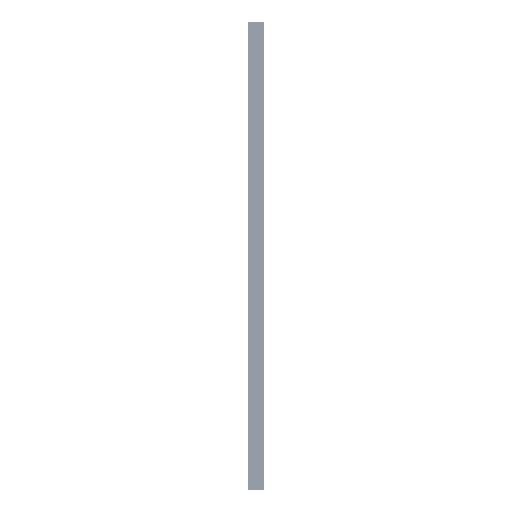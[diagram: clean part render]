
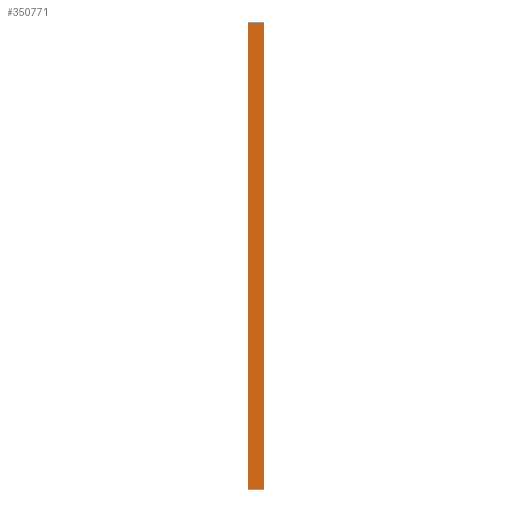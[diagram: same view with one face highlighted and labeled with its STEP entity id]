
A CAD part, left-side view. The second image highlights one B-rep face of the part: STEP entity #350771.
In plain terms, the highlighted planar face has unit normal (-1, 0, 0).
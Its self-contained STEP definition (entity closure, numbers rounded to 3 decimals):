
#26936 = VECTOR ( 'NONE', #192011, 1000. ) ;
#27064 = VERTEX_POINT ( 'NONE', #121810 ) ;
#48526 = VECTOR ( 'NONE', #95138, 1000. ) ;
#74448 = CARTESIAN_POINT ( 'NONE',  ( -23.646, 40.209, 0. ) ) ;
#85092 = CARTESIAN_POINT ( 'NONE',  ( -23.646, 40.209, 1398.5 ) ) ;
#86401 = FACE_OUTER_BOUND ( 'NONE', #95420, .T. ) ;
#95138 = DIRECTION ( 'NONE',  ( 0., 0., 1. ) ) ;
#95420 = EDGE_LOOP ( 'NONE', ( #310511, #368599, #385322, #286309 ) ) ;
#121810 = CARTESIAN_POINT ( 'NONE',  ( -23.646, -9.791, 0. ) ) ;
#137500 = CARTESIAN_POINT ( 'NONE',  ( -23.646, 0., 1398.5 ) ) ;
#144585 = DIRECTION ( 'NONE',  ( 0., 1., 0. ) ) ;
#150712 = DIRECTION ( 'NONE',  ( 0., 0., -1. ) ) ;
#156450 = EDGE_CURVE ( 'NONE', #323756, #363966, #360209, .T. ) ;
#165473 = CARTESIAN_POINT ( 'NONE',  ( -23.646, 40.209, 1398.5 ) ) ;
#183316 = VECTOR ( 'NONE', #144585, 1000. ) ;
#192011 = DIRECTION ( 'NONE',  ( 0., 1., 0. ) ) ;
#192225 = CARTESIAN_POINT ( 'NONE',  ( -23.646, 40.209, 1398.5 ) ) ;
#194274 = VERTEX_POINT ( 'NONE', #300054 ) ;
#218371 = EDGE_CURVE ( 'NONE', #194274, #363966, #377395, .T. ) ;
#225775 = LINE ( 'NONE', #314777, #322877 ) ;
#226852 = DIRECTION ( 'NONE',  ( 1., 0., 0. ) ) ;
#271859 = EDGE_CURVE ( 'NONE', #194274, #27064, #225775, .T. ) ;
#286309 = ORIENTED_EDGE ( 'NONE', *, *, #408089, .F. ) ;
#293256 = CARTESIAN_POINT ( 'NONE',  ( -23.646, 0., 0. ) ) ;
#300054 = CARTESIAN_POINT ( 'NONE',  ( -23.646, -9.791, 1398.5 ) ) ;
#310511 = ORIENTED_EDGE ( 'NONE', *, *, #271859, .F. ) ;
#314777 = CARTESIAN_POINT ( 'NONE',  ( -23.646, -9.791, 1398.5 ) ) ;
#322877 = VECTOR ( 'NONE', #150712, 1000. ) ;
#323756 = VERTEX_POINT ( 'NONE', #74448 ) ;
#325370 = PLANE ( 'NONE',  #335118 ) ;
#328156 = DIRECTION ( 'NONE',  ( 0., 0., -1. ) ) ;
#335118 = AXIS2_PLACEMENT_3D ( 'NONE', #165473, #226852, #328156 ) ;
#350771 = ADVANCED_FACE ( 'NONE', ( #86401 ), #325370, .F. ) ;
#360209 = LINE ( 'NONE', #192225, #48526 ) ;
#363966 = VERTEX_POINT ( 'NONE', #85092 ) ;
#368599 = ORIENTED_EDGE ( 'NONE', *, *, #218371, .T. ) ;
#377395 = LINE ( 'NONE', #137500, #183316 ) ;
#385322 = ORIENTED_EDGE ( 'NONE', *, *, #156450, .F. ) ;
#389285 = LINE ( 'NONE', #293256, #26936 ) ;
#408089 = EDGE_CURVE ( 'NONE', #27064, #323756, #389285, .T. ) ;
